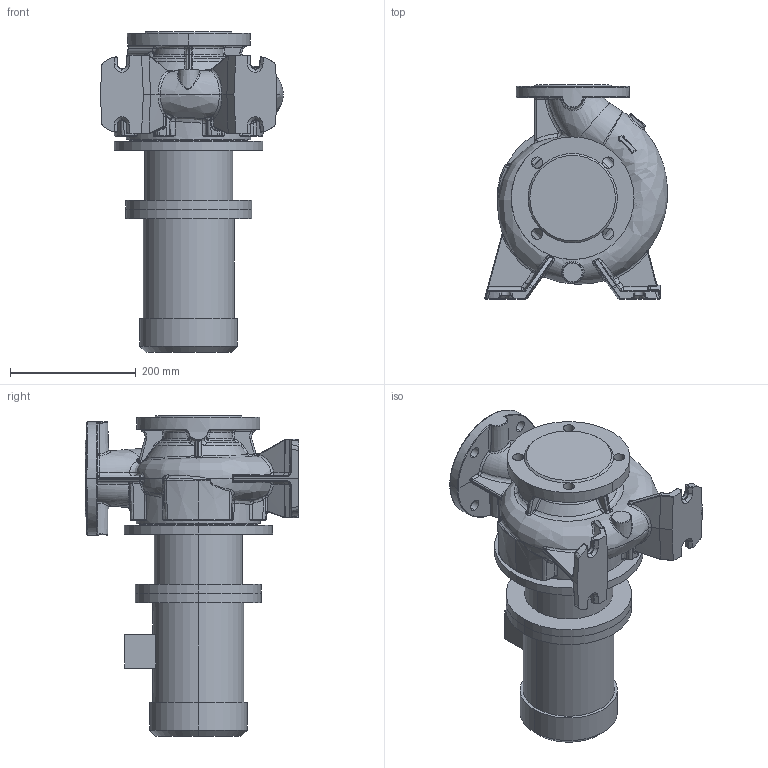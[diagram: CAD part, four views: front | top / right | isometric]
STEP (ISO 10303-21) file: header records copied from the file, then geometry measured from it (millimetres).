
FILE_DESCRIPTION (( 'STEP AP203' ), '1' );
FILE_NAME ('KRM 80-65-125-4-0,55.STEP', '2026-05-07T12:35:46', ( '' ), ( '' ), 'SwSTEP 2.0', 'SolidWorks 2016', '' );
FILE_SCHEMA (( 'CONFIG_CONTROL_DESIGN' ));
Products named in the file (1): KRM 80-65-125-4-0,55
Bounding box: 290.65 x 340 x 509.8 mm (x, y, z)
Volume: 14660933.8 mm3; surface area: 837927.9 mm2
Topology: 4 solids, 4 shells, 985 faces, 2345 edges, 1370 vertices
Faces by surface type: bspline 488, cylinder 217, plane 143, cone 67, torus 63, sphere 7
Entity records: 57822 total; most frequent: CARTESIAN_POINT 38979, ORIENTED_EDGE 4650, DIRECTION 3017, EDGE_CURVE 2325, VERTEX_POINT 1370, AXIS2_PLACEMENT_3D 1287, EDGE_LOOP 1023, FACE_OUTER_BOUND 985
